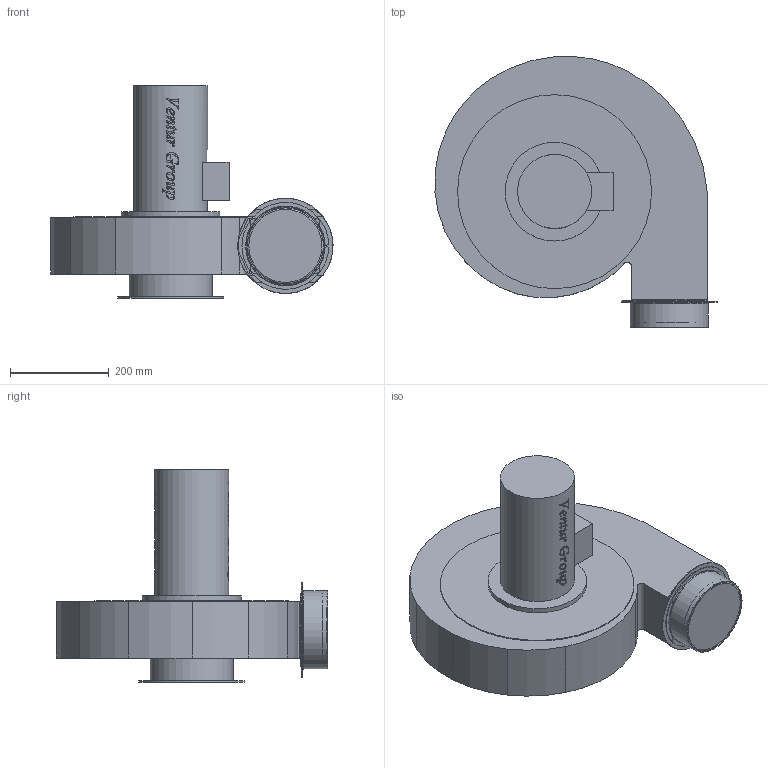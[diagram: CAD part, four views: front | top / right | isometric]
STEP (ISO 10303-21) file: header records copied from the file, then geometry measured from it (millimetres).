
FILE_DESCRIPTION(/* description */ (''),/* implementation_level */ '2;1');
FILE_NAME(/* name */ 'E:\Mariusz\Modele uproszczone\GMT-K\GMT-K_200 RD90 43552345\GMT-K_200 RD90 43552345.stp',/* time_stamp */ '2018-07-12T10:24:55+02:00',/* author */ ('M.Janczarek'),/* organization */ (''),/* preprocessor_version */ 'ST-DEVELOPER v16.5',/* originating_system */ 'Autodesk Inventor 2017',/* authorisation */ '');
FILE_SCHEMA (('AUTOMOTIVE_DESIGN { 1 0 10303 214 3 1 1 }'));
Length unit declared in the file: millimetre
Products named in the file (1): GMT-K_200_110T RD90 43552345
Bounding box: 571.38 x 549.02 x 431.3 mm (x, y, z)
Volume: 31103428.1 mm3; surface area: 1011290.9 mm2
Topology: 1 solids, 1 shells, 575 faces, 1618 edges, 1068 vertices
Faces by surface type: bspline 366, plane 128, cylinder 77, torus 4
Full cylindrical faces by diameter (mm): 7.1 x6, 149.9 x1, 152 x1, 154 x2, 155 x1, 158 x1, 160 x1, 168 x1, 193 x1, 200 x1, 215 x1, 393 x2
Entity records: 24446 total; most frequent: CARTESIAN_POINT 12086, ORIENTED_EDGE 3062, EDGE_CURVE 1531, DIRECTION 1518, VERTEX_POINT 1023, LINE 680, VECTOR 680, EDGE_LOOP 640
